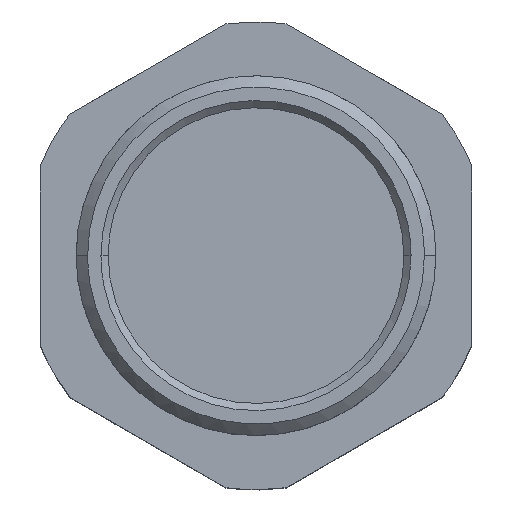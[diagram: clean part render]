
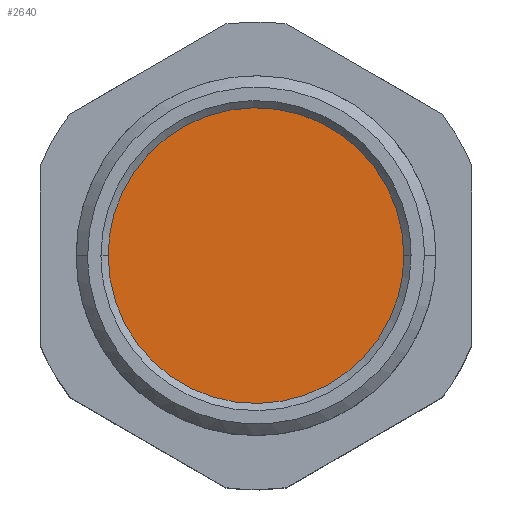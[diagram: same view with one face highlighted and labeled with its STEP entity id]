
A CAD part, top view. The second image highlights one B-rep face of the part: STEP entity #2640.
In plain terms, the highlighted planar face has unit normal (0, 0, 1).
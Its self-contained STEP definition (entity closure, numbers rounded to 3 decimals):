
#171 = CARTESIAN_POINT ( 'NONE',  ( 1.349, -20.55, 16. ) ) ;
#299 = CARTESIAN_POINT ( 'NONE',  ( 20.55, 0., 16. ) ) ;
#343 = DIRECTION ( 'NONE',  ( 0., 0., 1. ) ) ;
#358 = CARTESIAN_POINT ( 'NONE',  ( 13.577, 15.485, 16. ) ) ;
#603 = CARTESIAN_POINT ( 'NONE',  ( 20.418, -2.686, 16. ) ) ;
#664 = CARTESIAN_POINT ( 'NONE',  ( 9.11, -18.47, 16. ) ) ;
#703 = CARTESIAN_POINT ( 'NONE',  ( 17.836, 10.295, 16. ) ) ;
#719 = CARTESIAN_POINT ( 'NONE',  ( -2.686, 20.418, 16. ) ) ;
#736 = CARTESIAN_POINT ( 'NONE',  ( -17.836, 10.295, 16. ) ) ;
#827 = ORIENTED_EDGE ( 'NONE', *, *, #1116, .T. ) ;
#1098 = CARTESIAN_POINT ( 'NONE',  ( 20.418, 2.686, 16. ) ) ;
#1102 = PLANE ( 'NONE',  #2960 ) ;
#1116 = EDGE_CURVE ( 'NONE', #4570, #4498, #2530, .T. ) ;
#1134 = CARTESIAN_POINT ( 'NONE',  ( 20.55, 1.349, 16. ) ) ;
#1169 = CARTESIAN_POINT ( 'NONE',  ( 20.55, 0., 16. ) ) ;
#1336 = CARTESIAN_POINT ( 'NONE',  ( -19.892, -5.332, 16. ) ) ;
#1468 = CARTESIAN_POINT ( 'NONE',  ( 19.502, -6.618, 16. ) ) ;
#1482 = CARTESIAN_POINT ( 'NONE',  ( 0., 0., 16. ) ) ;
#1538 = CARTESIAN_POINT ( 'NONE',  ( 9.11, 18.469, 16. ) ) ;
#1557 = CARTESIAN_POINT ( 'NONE',  ( -6.618, 19.502, 16. ) ) ;
#1574 = CARTESIAN_POINT ( 'NONE',  ( 18.47, 9.11, 16. ) ) ;
#1595 = CARTESIAN_POINT ( 'NONE',  ( -13.577, 15.485, 16. ) ) ;
#1732 = CARTESIAN_POINT ( 'NONE',  ( -20.55, -1.349, 16. ) ) ;
#1797 = CARTESIAN_POINT ( 'NONE',  ( 2.686, -20.418, 16. ) ) ;
#1924 = CARTESIAN_POINT ( 'NONE',  ( -16.337, 12.539, 16. ) ) ;
#1934 = ORIENTED_EDGE ( 'NONE', *, *, #4139, .T. ) ;
#1964 = CARTESIAN_POINT ( 'NONE',  ( 5.332, 19.892, 16. ) ) ;
#1981 = CARTESIAN_POINT ( 'NONE',  ( -19.892, 5.332, 16. ) ) ;
#2159 = CARTESIAN_POINT ( 'NONE',  ( -15.485, -13.577, 16. ) ) ;
#2274 = CARTESIAN_POINT ( 'NONE',  ( 16.337, -12.539, 16. ) ) ;
#2294 = CARTESIAN_POINT ( 'NONE',  ( 6.618, -19.502, 16. ) ) ;
#2317 = CARTESIAN_POINT ( 'NONE',  ( 20.55, -1.35, 16. ) ) ;
#2328 = DIRECTION ( 'NONE',  ( 1., 0., 0. ) ) ;
#2347 = CARTESIAN_POINT ( 'NONE',  ( 15.485, 13.577, 16. ) ) ;
#2364 = CARTESIAN_POINT ( 'NONE',  ( 6.618, 19.502, 16. ) ) ;
#2396 = CARTESIAN_POINT ( 'NONE',  ( -20.418, 2.686, 16. ) ) ;
#2530 = B_SPLINE_CURVE_WITH_KNOTS ( 'NONE', 3,
 ( #1169, #1134, #1098, #2820, #4842, #1574, #703, #2805, #2347, #358, #4020, #4001, #1538, #2364, #1964, #5230, #5250, #2780, #719, #2765, #1557, #3231, #3213, #3658, #1595, #4469, #1924, #736, #4451, #3640, #1981, #2396, #5286, #4487 ),
 .UNSPECIFIED., .F., .F.,
 ( 4, 2, 2, 2, 2, 2, 2, 2, 2, 2, 2, 2, 2, 2, 2, 2, 4 ),
 ( 0., 0.063, 0.125, 0.187, 0.25, 0.312, 0.375, 0.438, 0.5, 0.563, 0.625, 0.688, 0.75, 0.813, 0.875, 0.938, 1. ),
 .UNSPECIFIED. ) ;
#2574 = CARTESIAN_POINT ( 'NONE',  ( -12.539, -16.337, 16. ) ) ;
#2640 = ADVANCED_FACE ( 'NONE', ( #4079 ), #1102, .T. ) ;
#2643 = CARTESIAN_POINT ( 'NONE',  ( -5.332, -19.892, 16. ) ) ;
#2703 = CARTESIAN_POINT ( 'NONE',  ( 17.836, -10.295, 16. ) ) ;
#2765 = CARTESIAN_POINT ( 'NONE',  ( -5.332, 19.892, 16. ) ) ;
#2780 = CARTESIAN_POINT ( 'NONE',  ( -1.349, 20.55, 16. ) ) ;
#2805 = CARTESIAN_POINT ( 'NONE',  ( 16.337, 12.539, 16. ) ) ;
#2820 = CARTESIAN_POINT ( 'NONE',  ( 19.892, 5.332, 16. ) ) ;
#2960 = AXIS2_PLACEMENT_3D ( 'NONE', #1482, #343, #2328 ) ;
#3004 = CARTESIAN_POINT ( 'NONE',  ( -10.295, -17.836, 16. ) ) ;
#3115 = CARTESIAN_POINT ( 'NONE',  ( 19.892, -5.332, 16. ) ) ;
#3171 = EDGE_LOOP ( 'NONE', ( #1934, #827 ) ) ;
#3213 = CARTESIAN_POINT ( 'NONE',  ( -10.295, 17.836, 16. ) ) ;
#3231 = CARTESIAN_POINT ( 'NONE',  ( -9.11, 18.47, 16. ) ) ;
#3420 = CARTESIAN_POINT ( 'NONE',  ( -6.618, -19.502, 16. ) ) ;
#3442 = CARTESIAN_POINT ( 'NONE',  ( 5.332, -19.892, 16. ) ) ;
#3460 = CARTESIAN_POINT ( 'NONE',  ( -18.47, -9.11, 16. ) ) ;
#3561 = CARTESIAN_POINT ( 'NONE',  ( 10.295, -17.836, 16. ) ) ;
#3640 = CARTESIAN_POINT ( 'NONE',  ( -19.502, 6.618, 16. ) ) ;
#3658 = CARTESIAN_POINT ( 'NONE',  ( -12.539, 16.337, 16. ) ) ;
#3663 = CARTESIAN_POINT ( 'NONE',  ( 20.55, 0., 16. ) ) ;
#3847 = CARTESIAN_POINT ( 'NONE',  ( -1.349, -20.55, 16. ) ) ;
#3862 = CARTESIAN_POINT ( 'NONE',  ( -20.418, -2.686, 16. ) ) ;
#3881 = CARTESIAN_POINT ( 'NONE',  ( -2.686, -20.418, 16. ) ) ;
#4001 = CARTESIAN_POINT ( 'NONE',  ( 10.295, 17.836, 16. ) ) ;
#4020 = CARTESIAN_POINT ( 'NONE',  ( 12.539, 16.337, 16. ) ) ;
#4079 = FACE_OUTER_BOUND ( 'NONE', #3171, .T. ) ;
#4139 = EDGE_CURVE ( 'NONE', #4498, #4570, #4177, .T. ) ;
#4177 = B_SPLINE_CURVE_WITH_KNOTS ( 'NONE', 3,
 ( #4290, #1732, #3862, #1336, #5123, #3460, #4228, #5087, #2159, #5060, #2574, #3004, #4251, #3420, #2643, #3881, #3847, #171, #1797, #3442, #2294, #664, #3561, #4391, #4796, #5172, #2274, #2703, #4718, #1468, #3115, #603, #2317, #299 ),
 .UNSPECIFIED., .F., .F.,
 ( 4, 2, 2, 2, 2, 2, 2, 2, 2, 2, 2, 2, 2, 2, 2, 2, 4 ),
 ( 0., 0.063, 0.125, 0.188, 0.25, 0.313, 0.375, 0.438, 0.5, 0.563, 0.625, 0.688, 0.75, 0.813, 0.875, 0.938, 1. ),
 .UNSPECIFIED. ) ;
#4228 = CARTESIAN_POINT ( 'NONE',  ( -17.836, -10.295, 16. ) ) ;
#4251 = CARTESIAN_POINT ( 'NONE',  ( -9.11, -18.469, 16. ) ) ;
#4290 = CARTESIAN_POINT ( 'NONE',  ( -20.55, 0., 16. ) ) ;
#4391 = CARTESIAN_POINT ( 'NONE',  ( 12.539, -16.337, 16. ) ) ;
#4451 = CARTESIAN_POINT ( 'NONE',  ( -18.469, 9.11, 16. ) ) ;
#4469 = CARTESIAN_POINT ( 'NONE',  ( -15.485, 13.577, 16. ) ) ;
#4487 = CARTESIAN_POINT ( 'NONE',  ( -20.55, 0., 16. ) ) ;
#4498 = VERTEX_POINT ( 'NONE', #4522 ) ;
#4522 = CARTESIAN_POINT ( 'NONE',  ( -20.55, 0., 16. ) ) ;
#4570 = VERTEX_POINT ( 'NONE', #3663 ) ;
#4718 = CARTESIAN_POINT ( 'NONE',  ( 18.469, -9.11, 16. ) ) ;
#4796 = CARTESIAN_POINT ( 'NONE',  ( 13.577, -15.485, 16. ) ) ;
#4842 = CARTESIAN_POINT ( 'NONE',  ( 19.502, 6.618, 16. ) ) ;
#5060 = CARTESIAN_POINT ( 'NONE',  ( -13.577, -15.485, 16. ) ) ;
#5087 = CARTESIAN_POINT ( 'NONE',  ( -16.337, -12.539, 16. ) ) ;
#5123 = CARTESIAN_POINT ( 'NONE',  ( -19.502, -6.618, 16. ) ) ;
#5172 = CARTESIAN_POINT ( 'NONE',  ( 15.485, -13.577, 16. ) ) ;
#5230 = CARTESIAN_POINT ( 'NONE',  ( 2.686, 20.418, 16. ) ) ;
#5250 = CARTESIAN_POINT ( 'NONE',  ( 1.349, 20.55, 16. ) ) ;
#5286 = CARTESIAN_POINT ( 'NONE',  ( -20.55, 1.35, 16. ) ) ;
